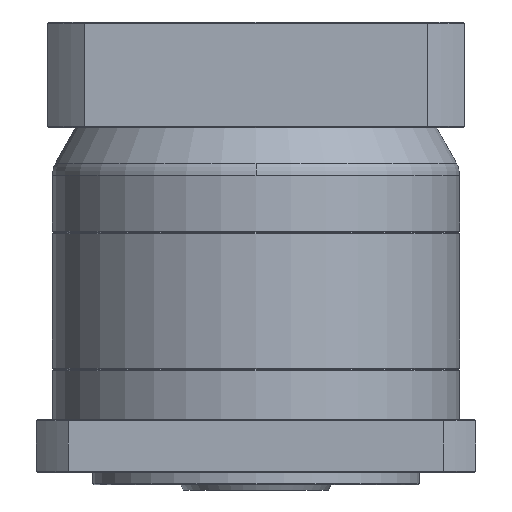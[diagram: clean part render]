
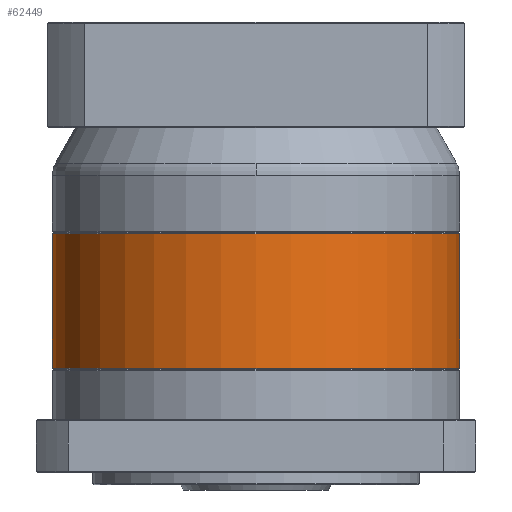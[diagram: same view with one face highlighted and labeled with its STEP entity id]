
A CAD part, front view. The second image highlights one B-rep face of the part: STEP entity #62449.
In plain terms, the highlighted cylindrical face has radius 81 mm (diameter 162 mm), a partial arc.
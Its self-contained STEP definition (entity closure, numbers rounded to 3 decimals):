
#3173 = CARTESIAN_POINT ( 'NONE',  ( -47.507, -5.561, 219.75 ) ) ;
#5720 = CIRCLE ( 'NONE', #90908, 81. ) ;
#11335 = VERTEX_POINT ( 'NONE', #28319 ) ;
#12490 = VERTEX_POINT ( 'NONE', #110960 ) ;
#15886 = EDGE_LOOP ( 'NONE', ( #117265, #37592, #31484, #95582, #76334 ) ) ;
#20623 = CYLINDRICAL_SURFACE ( 'NONE', #122124, 81. ) ;
#28319 = CARTESIAN_POINT ( 'NONE',  ( -128.507, -5.561, 219.75 ) ) ;
#30156 = CARTESIAN_POINT ( 'NONE',  ( 33.493, -5.561, 273.75 ) ) ;
#31484 = ORIENTED_EDGE ( 'NONE', *, *, #112382, .F. ) ;
#31650 = CARTESIAN_POINT ( 'NONE',  ( -128.507, -5.561, 273.75 ) ) ;
#36658 = AXIS2_PLACEMENT_3D ( 'NONE', #49595, #59549, #52202 ) ;
#37592 = ORIENTED_EDGE ( 'NONE', *, *, #72319, .F. ) ;
#42149 = VERTEX_POINT ( 'NONE', #114008 ) ;
#42554 = CIRCLE ( 'NONE', #72453, 81. ) ;
#49595 = CARTESIAN_POINT ( 'NONE',  ( -47.507, -5.561, 273.25 ) ) ;
#50094 = DIRECTION ( 'NONE',  ( 0., 0., -1. ) ) ;
#52202 = DIRECTION ( 'NONE',  ( 0., 1., 0. ) ) ;
#55568 = CARTESIAN_POINT ( 'NONE',  ( -47.507, -5.561, 273.25 ) ) ;
#57719 = FACE_OUTER_BOUND ( 'NONE', #15886, .T. ) ;
#59549 = DIRECTION ( 'NONE',  ( 0., 0., 1. ) ) ;
#61236 = CIRCLE ( 'NONE', #36658, 81. ) ;
#62449 = ADVANCED_FACE ( 'NONE', ( #57719 ), #20623, .T. ) ;
#63818 = DIRECTION ( 'NONE',  ( 0., 0., 1. ) ) ;
#69116 = DIRECTION ( 'NONE',  ( -1., 0., 0. ) ) ;
#70357 = VERTEX_POINT ( 'NONE', #73132 ) ;
#72319 = EDGE_CURVE ( 'NONE', #70357, #12490, #61236, .T. ) ;
#72453 = AXIS2_PLACEMENT_3D ( 'NONE', #55568, #114910, #124857 ) ;
#72500 = DIRECTION ( 'NONE',  ( -1., 0., 0. ) ) ;
#73132 = CARTESIAN_POINT ( 'NONE',  ( -47.507, -86.561, 273.25 ) ) ;
#76334 = ORIENTED_EDGE ( 'NONE', *, *, #82418, .T. ) ;
#77377 = LINE ( 'NONE', #31650, #85149 ) ;
#78547 = LINE ( 'NONE', #30156, #100257 ) ;
#82418 = EDGE_CURVE ( 'NONE', #11335, #42149, #5720, .T. ) ;
#85149 = VECTOR ( 'NONE', #90647, 1000. ) ;
#90647 = DIRECTION ( 'NONE',  ( 0., 0., -1. ) ) ;
#90908 = AXIS2_PLACEMENT_3D ( 'NONE', #3173, #63818, #72500 ) ;
#95582 = ORIENTED_EDGE ( 'NONE', *, *, #101062, .T. ) ;
#98134 = DIRECTION ( 'NONE',  ( 0., 0., -1. ) ) ;
#100257 = VECTOR ( 'NONE', #50094, 1000. ) ;
#101062 = EDGE_CURVE ( 'NONE', #120024, #11335, #77377, .T. ) ;
#103546 = CARTESIAN_POINT ( 'NONE',  ( -128.507, -5.561, 273.25 ) ) ;
#110960 = CARTESIAN_POINT ( 'NONE',  ( 33.493, -5.561, 273.25 ) ) ;
#112382 = EDGE_CURVE ( 'NONE', #120024, #70357, #42554, .T. ) ;
#114008 = CARTESIAN_POINT ( 'NONE',  ( 33.493, -5.561, 219.75 ) ) ;
#114910 = DIRECTION ( 'NONE',  ( 0., 0., 1. ) ) ;
#117265 = ORIENTED_EDGE ( 'NONE', *, *, #118669, .F. ) ;
#118669 = EDGE_CURVE ( 'NONE', #12490, #42149, #78547, .T. ) ;
#120024 = VERTEX_POINT ( 'NONE', #103546 ) ;
#122124 = AXIS2_PLACEMENT_3D ( 'NONE', #127541, #98134, #69116 ) ;
#124857 = DIRECTION ( 'NONE',  ( 0., 1., 0. ) ) ;
#127541 = CARTESIAN_POINT ( 'NONE',  ( -47.507, -5.561, 273.75 ) ) ;
